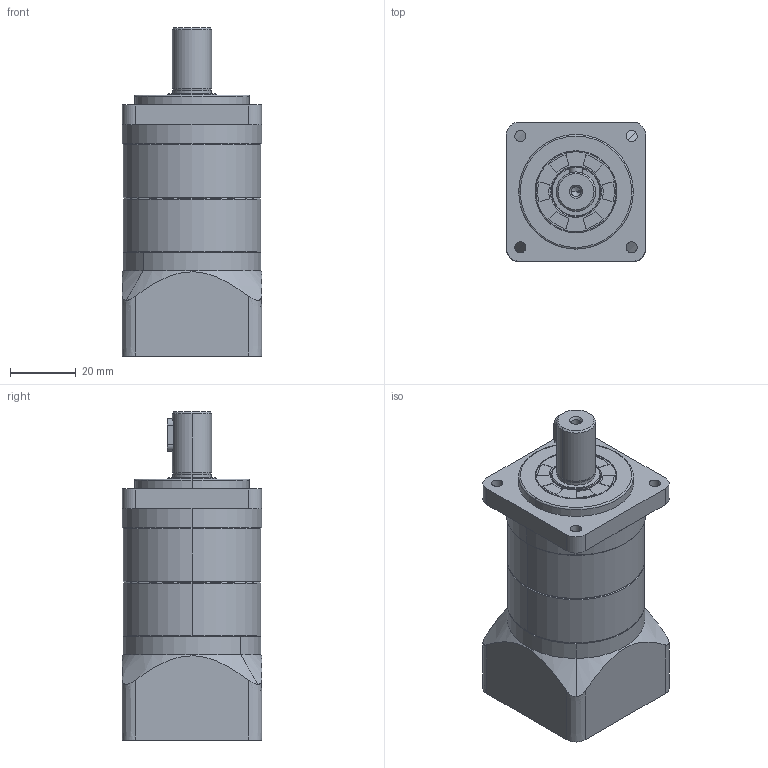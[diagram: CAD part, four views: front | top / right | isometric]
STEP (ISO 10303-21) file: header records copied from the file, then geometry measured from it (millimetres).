
FILE_DESCRIPTION (( 'STEP AP203' ), '1' );
FILE_NAME ('SB42-L2(8-30-45-M3).STEP', '2021-12-14T03:51:31', ( '' ), ( '' ), 'SwSTEP 2.0', 'SolidWorks 2016', '' );
FILE_SCHEMA (( 'CONFIG_CONTROL_DESIGN' ));
Length unit declared in the file: millimetre
Products named in the file (8): SN42; SB42-L2(8-30-45-M3); SN42-(8); SN42-(12x20-4x10); SN42-15x25x4; SN42-26x14x11-M4; SN42-(30-45-M3); SB42-(35x3-48-3.4)
Assembly tree (8 placements, depth 2):
  SB42-L2(8-30-45-M3)
    SB42-(35x3-48-3.4)
    SN42-(12x20-4x10)
    SN42  x2
    SN42-(30-45-M3)
    SN42-(8)
    SN42-26x14x11-M4
    SN42-15x25x4
Bounding box: 42.5 x 42.5 x 100.1 mm (x, y, z)
Volume: 101583.4 mm3; surface area: 38838.8 mm2
Topology: 8 solids, 11 shells, 388 faces, 952 edges, 595 vertices
Faces by surface type: cylinder 198, plane 95, cone 56, bspline 37, torus 2
Entity records: 23547 total; most frequent: CARTESIAN_POINT 14309, ORIENTED_EDGE 1788, DIRECTION 1685, EDGE_CURVE 896, AXIS2_PLACEMENT_3D 661, VERTEX_POINT 571, EDGE_LOOP 434, FACE_OUTER_BOUND 372
